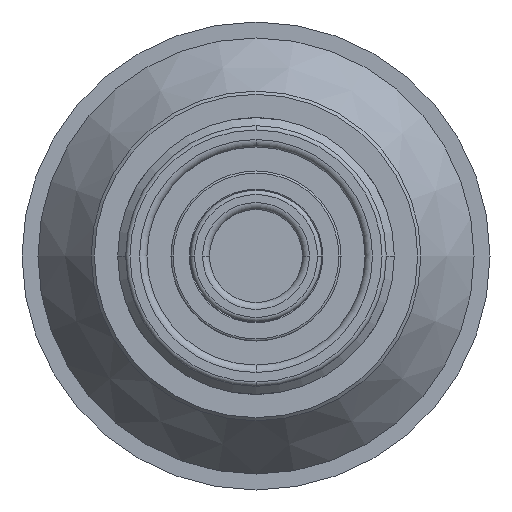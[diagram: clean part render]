
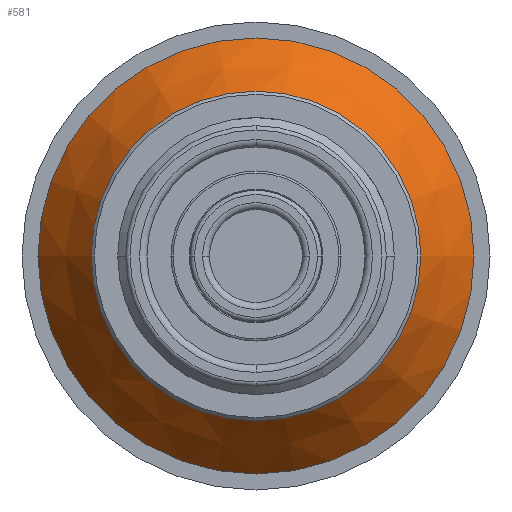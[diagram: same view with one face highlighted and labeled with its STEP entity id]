
A CAD part, front view. The second image highlights one B-rep face of the part: STEP entity #581.
In plain terms, the highlighted conical face has half-angle 36 degrees and reference radius 20.5 mm.
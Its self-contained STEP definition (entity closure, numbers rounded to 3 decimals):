
#371=FACE_BOUND('',#914,.T.);
#372=FACE_BOUND('',#915,.T.);
#431=CONICAL_SURFACE('',#2682,20.5,36.);
#581=ADVANCED_FACE('',(#371,#372),#431,.T.);
#914=EDGE_LOOP('',(#1644));
#915=EDGE_LOOP('',(#1645));
#1127=CIRCLE('',#2679,20.5);
#1128=CIRCLE('',#2681,15.414);
#1644=ORIENTED_EDGE('',*,*,#2193,.F.);
#1645=ORIENTED_EDGE('',*,*,#2192,.T.);
#1908=VERTEX_POINT('',#4203);
#1909=VERTEX_POINT('',#4206);
#2192=EDGE_CURVE('',#1908,#1908,#1127,.T.);
#2193=EDGE_CURVE('',#1909,#1909,#1128,.T.);
#2679=AXIS2_PLACEMENT_3D('',#4202,#3376,#3377);
#2681=AXIS2_PLACEMENT_3D('',#4205,#3380,#3381);
#2682=AXIS2_PLACEMENT_3D('',#4207,#3382,#3383);
#3376=DIRECTION('',(0.,0.,-1.));
#3377=DIRECTION('',(-1.,0.,0.));
#3380=DIRECTION('',(0.,0.,-1.));
#3381=DIRECTION('',(-1.,0.,0.));
#3382=DIRECTION('',(0.,0.,1.));
#3383=DIRECTION('',(1.,0.,0.));
#4202=CARTESIAN_POINT('',(0.,0.,12.));
#4203=CARTESIAN_POINT('',(-20.5,0.,12.));
#4205=CARTESIAN_POINT('',(0.,0.,5.));
#4206=CARTESIAN_POINT('',(-15.414,0.,5.));
#4207=CARTESIAN_POINT('',(0.,0.,12.));
